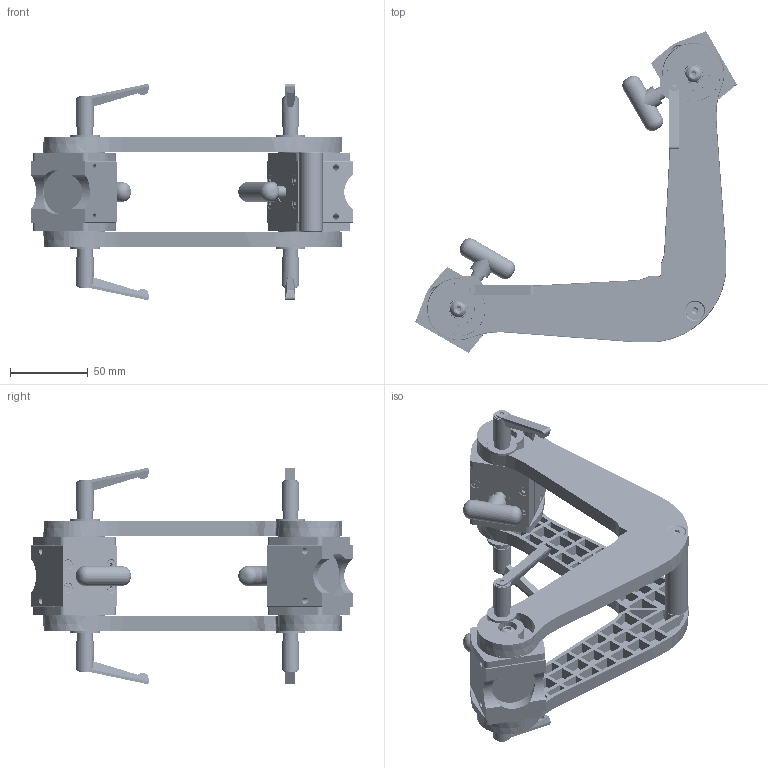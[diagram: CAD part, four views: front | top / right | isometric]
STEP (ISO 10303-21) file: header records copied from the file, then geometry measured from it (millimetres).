
FILE_DESCRIPTION (( 'STEP AP203' ), '1' );
FILE_NAME ('8000091.STEP', '2013-10-02T16:43:31', ( '' ), ( '' ), 'SwSTEP 2.0', 'SolidWorks 2010', '' );
FILE_SCHEMA (( 'CONFIG_CONTROL_DESIGN' ));
Products named in the file (1): 8000091
Bounding box: 207.16 x 207.16 x 138.91 mm (x, y, z)
Surface area: 169708.9 mm2 (no closed solid volume)
Topology: 0 solids, 238 shells, 3310 faces, 8798 edges, 5589 vertices
Faces by surface type: cone 1305, cylinder 898, plane 851, torus 248, sphere 8
Entity records: 118170 total; most frequent: CARTESIAN_POINT 36352, DIRECTION 17949, ORIENTED_EDGE 15712, EDGE_CURVE 8798, AXIS2_PLACEMENT_3D 7008, VERTEX_POINT 5589, LINE 3933, VECTOR 3933
